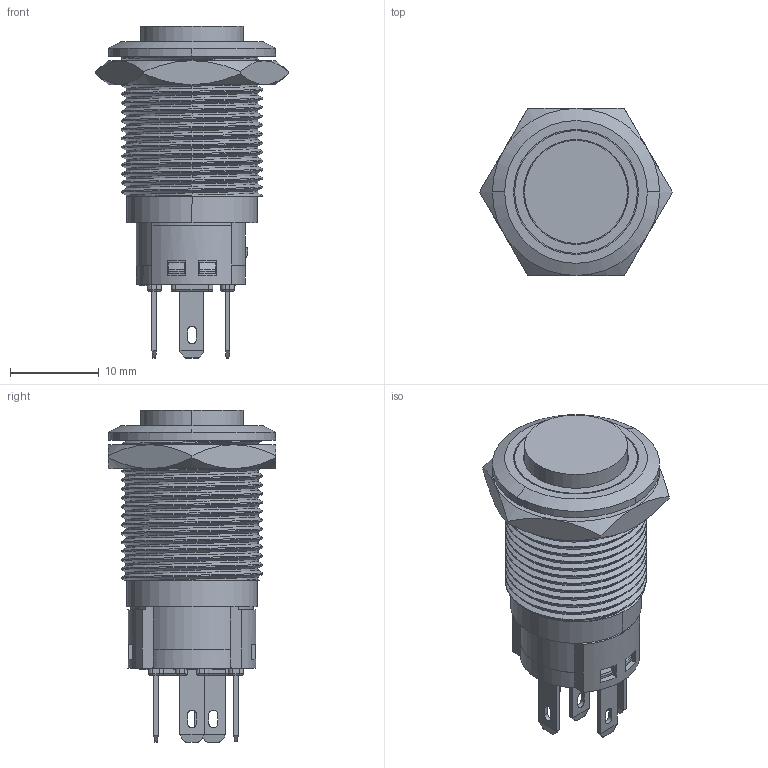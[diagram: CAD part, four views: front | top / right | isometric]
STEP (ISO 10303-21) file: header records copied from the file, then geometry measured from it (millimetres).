
FILE_DESCRIPTION((''),'2;1');
FILE_NAME('ASM0017_ASM','2024-12-18T',('ty0035'),(''),'PRO/ENGINEER BY PARAMETRIC TECHNOLOGY CORPORATION, 2015440','PRO/ENGINEER BY PARAMETRIC TECHNOLOGY CORPORATION, 2015440','');
FILE_SCHEMA(('AUTOMOTIVE_DESIGN { 1 0 10303 214 1 1 1 1 }'));
Length unit declared in the file: millimetre
Products named in the file (15): PRT0005; PRT0006; PRT0007; PRT0008; PRT0014; PRT0015; PRT0009; PRT0010; PRT0011; PRT0012; PRT0013; ASM0020_ASM; ASM0019_ASM; ASM0018_ASM; ASM0017_ASM
Assembly tree (14 placements, depth 5):
  ASM0017_ASM
    ASM0018_ASM
      ASM0019_ASM
        ASM0020_ASM
          PRT0005
          PRT0006
          PRT0007
          PRT0008
          PRT0014
          PRT0015
          PRT0009
          PRT0010
          PRT0011
          PRT0012
          PRT0013
Bounding box: 21.71 x 18.8 x 37.35 mm (x, y, z)
Surface area: 6923.5 mm2 (no closed solid volume)
Topology: 0 solids, 11 shells, 955 faces, 2713 edges, 1800 vertices
Faces by surface type: plane 546, cylinder 247, extrusion 56, torus 50, cone 42, bspline 14
Entity records: 38116 total; most frequent: CARTESIAN_POINT 12988, ORIENTED_EDGE 5426, DIRECTION 4681, EDGE_CURVE 2713, VERTEX_POINT 1800, VECTOR 1697, LINE 1641, AXIS2_PLACEMENT_3D 1492
